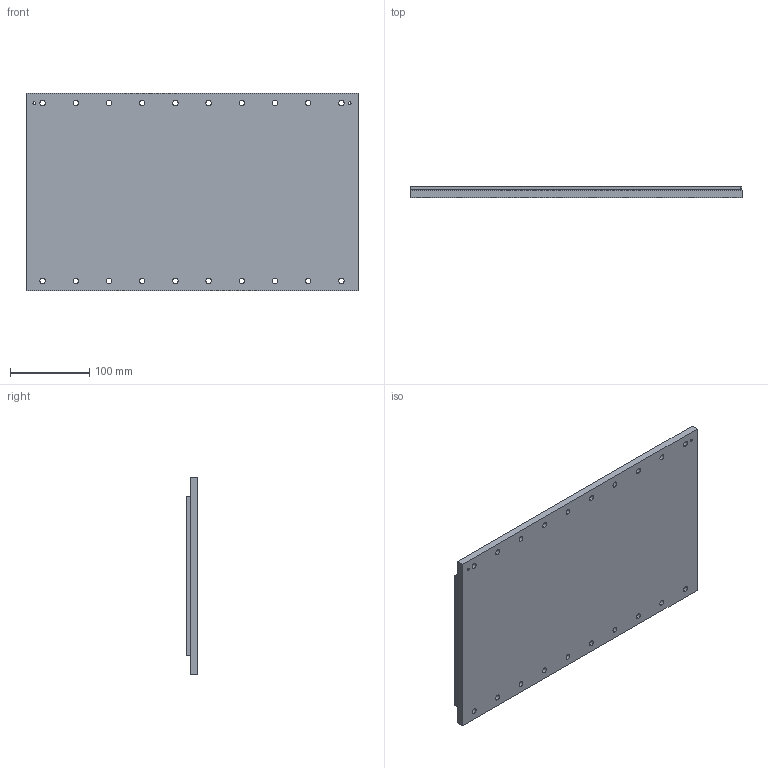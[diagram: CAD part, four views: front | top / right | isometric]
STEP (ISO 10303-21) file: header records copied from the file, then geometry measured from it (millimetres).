
FILE_DESCRIPTION (( 'STEP AP214' ), '1' );
FILE_NAME ('PIXM350-250-TL420-C.step', '2021-11-01T10:03:23', ( '' ), ( '' ), 'SwSTEP 2.0', 'SolidWorks 2020', '' );
FILE_SCHEMA (( 'AUTOMOTIVE_DESIGN' ));
Length unit declared in the file: millimetre
Products named in the file (1): PIXM350-250-TL420-C
Bounding box: 420 x 13.8 x 250 mm (x, y, z)
Volume: 1336078.6 mm3; surface area: 573141.1 mm2
Topology: 3 solids, 3 shells, 149 faces, 350 edges, 228 vertices
Faces by surface type: cylinder 88, plane 61
Entity records: 6111 total; most frequent: DIRECTION 826, CARTESIAN_POINT 728, ORIENTED_EDGE 700, EDGE_CURVE 350, AXIS2_PLACEMENT_3D 326, VERTEX_POINT 228, EDGE_LOOP 214, CIRCLE 176
